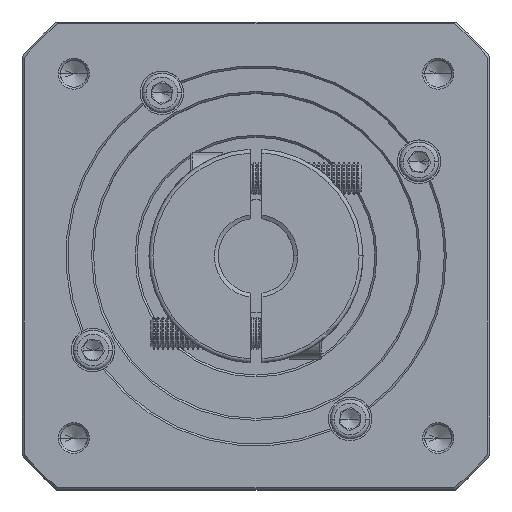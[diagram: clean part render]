
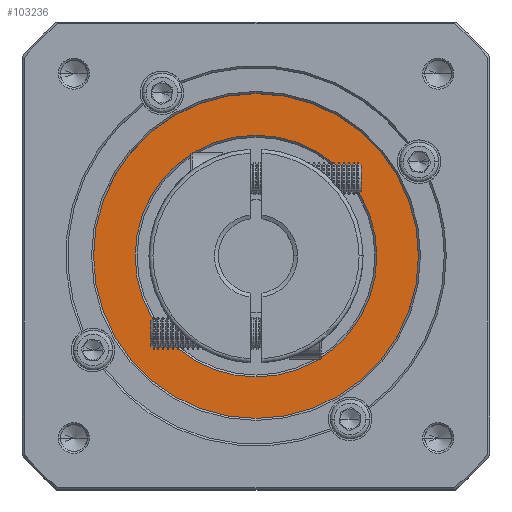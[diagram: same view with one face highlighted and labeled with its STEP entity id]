
A CAD part, top view. The second image highlights one B-rep face of the part: STEP entity #103236.
In plain terms, the highlighted planar face has unit normal (0, 0, 1).
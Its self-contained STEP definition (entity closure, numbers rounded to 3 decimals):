
#6817 = VERTEX_POINT ( 'NONE', #104259 ) ;
#10031 = DIRECTION ( 'NONE',  ( 0., 0., 1. ) ) ;
#12826 = PLANE ( 'NONE',  #107218 ) ;
#12835 = CARTESIAN_POINT ( 'NONE',  ( 45.534, 82.637, -34.026 ) ) ;
#19899 = DIRECTION ( 'NONE',  ( 1., 0., 0. ) ) ;
#22391 = ORIENTED_EDGE ( 'NONE', *, *, #121235, .T. ) ;
#41254 = VERTEX_POINT ( 'NONE', #107907 ) ;
#48680 = FACE_BOUND ( 'NONE', #73082, .T. ) ;
#48731 = DIRECTION ( 'NONE',  ( 0., -1., 0. ) ) ;
#50256 = CARTESIAN_POINT ( 'NONE',  ( 86.534, 52.137, -34.026 ) ) ;
#54998 = ORIENTED_EDGE ( 'NONE', *, *, #66922, .T. ) ;
#60390 = FACE_OUTER_BOUND ( 'NONE', #60610, .T. ) ;
#60610 = EDGE_LOOP ( 'NONE', ( #54998, #64546 ) ) ;
#64546 = ORIENTED_EDGE ( 'NONE', *, *, #125842, .T. ) ;
#66922 = EDGE_CURVE ( 'NONE', #82862, #6817, #122887, .T. ) ;
#70124 = EDGE_CURVE ( 'NONE', #41254, #123016, #87472, .T. ) ;
#71273 = DIRECTION ( 'NONE',  ( 0., 0., -1. ) ) ;
#73082 = EDGE_LOOP ( 'NONE', ( #100690, #22391 ) ) ;
#73690 = CARTESIAN_POINT ( 'NONE',  ( 45.534, 52.137, -34.026 ) ) ;
#74150 = CARTESIAN_POINT ( 'NONE',  ( 45.534, 52.137, -34.026 ) ) ;
#74505 = CARTESIAN_POINT ( 'NONE',  ( 45.534, 52.137, -34.026 ) ) ;
#80315 = AXIS2_PLACEMENT_3D ( 'NONE', #103666, #71273, #48731 ) ;
#81879 = AXIS2_PLACEMENT_3D ( 'NONE', #73690, #116560, #85850 ) ;
#82862 = VERTEX_POINT ( 'NONE', #50256 ) ;
#85850 = DIRECTION ( 'NONE',  ( 1., 0., 0. ) ) ;
#87472 = CIRCLE ( 'NONE', #120561, 30.5 ) ;
#88645 = CIRCLE ( 'NONE', #80315, 30.5 ) ;
#98928 = DIRECTION ( 'NONE',  ( 0., 0., 1. ) ) ;
#100690 = ORIENTED_EDGE ( 'NONE', *, *, #70124, .T. ) ;
#103236 = ADVANCED_FACE ( 'NONE', ( #60390, #48680 ), #12826, .T. ) ;
#103666 = CARTESIAN_POINT ( 'NONE',  ( 45.534, 52.137, -34.026 ) ) ;
#104259 = CARTESIAN_POINT ( 'NONE',  ( 4.534, 52.137, -34.026 ) ) ;
#107218 = AXIS2_PLACEMENT_3D ( 'NONE', #120194, #98928, #110750 ) ;
#107907 = CARTESIAN_POINT ( 'NONE',  ( 45.534, 21.637, -34.026 ) ) ;
#110750 = DIRECTION ( 'NONE',  ( 1., 0., 0. ) ) ;
#116560 = DIRECTION ( 'NONE',  ( 0., 0., 1. ) ) ;
#117411 = CIRCLE ( 'NONE', #81879, 41. ) ;
#120194 = CARTESIAN_POINT ( 'NONE',  ( 45.534, 52.137, -34.026 ) ) ;
#120561 = AXIS2_PLACEMENT_3D ( 'NONE', #74150, #126936, #138662 ) ;
#120998 = AXIS2_PLACEMENT_3D ( 'NONE', #74505, #10031, #19899 ) ;
#121235 = EDGE_CURVE ( 'NONE', #123016, #41254, #88645, .T. ) ;
#122887 = CIRCLE ( 'NONE', #120998, 41. ) ;
#123016 = VERTEX_POINT ( 'NONE', #12835 ) ;
#125842 = EDGE_CURVE ( 'NONE', #6817, #82862, #117411, .T. ) ;
#126936 = DIRECTION ( 'NONE',  ( 0., 0., -1. ) ) ;
#138662 = DIRECTION ( 'NONE',  ( 0., -1., 0. ) ) ;
